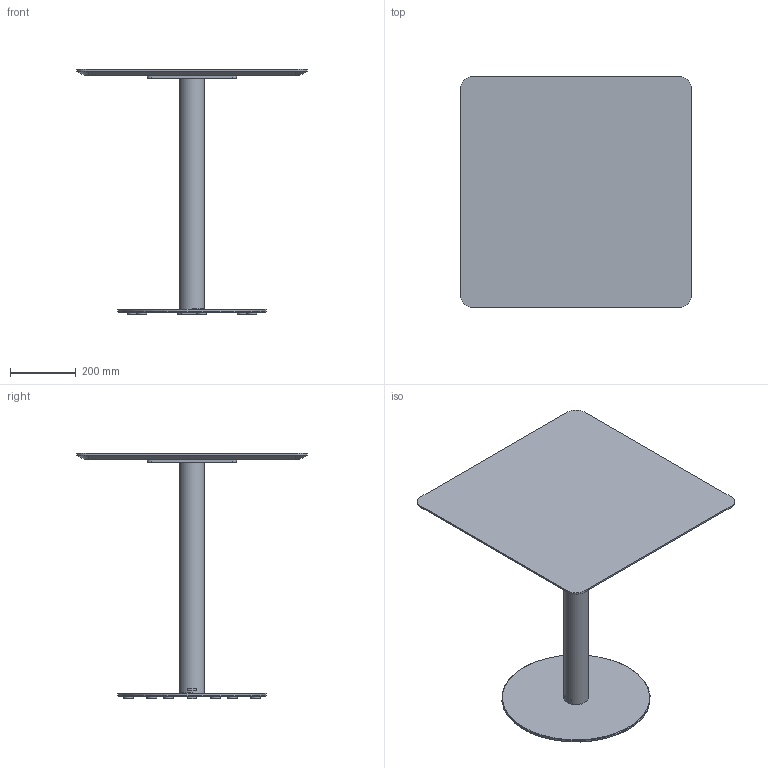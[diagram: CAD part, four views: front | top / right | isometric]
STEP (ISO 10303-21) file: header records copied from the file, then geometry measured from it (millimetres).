
FILE_DESCRIPTION( ('This file contains a STEP AP42 implementation' ,'as created by ZW3D STEP Interface translator.') ,'2;1' );
FILE_NAME( 'Henri - B_Rond - F3 - M5 - 700 x 700 x 750.stp' ,'24 912.154446', (''), ('ZWCAD Software Co.'), 'Version 1.0', 'ZW3D to STEP translator', '' );
FILE_SCHEMA(('AUTOMOTIVE_DESIGN { 1 0 10303 214 1 1 1 1 }'));
Length unit declared in the file: millimetre
Products named in the file (14): 0; PIED BISTROT PARAMETRIQUE_; COLONNE ACIER Ø76 V.02_; TUB-D076-02_; PLA-R76B-01_; SOCLE ACIER C Ø450 V.02_; SCL-D450-02_; PLA-R30A-01_; PLA-R30A-01; CROIX ACIER 370 V.02_; CRX-X370-02_; WUERTH 0276063020 Euro-screw 6.3x2 Verzinkt_; PLATEAU BISTROT PARAMETRIQUE_; insert_m6_13_
Assembly tree (24 placements, depth 3):
  0
  PIED BISTROT PARAMETRIQUE_
    COLONNE ACIER Ø76 V.02_
      TUB-D076-02_
      PLA-R76B-01_  x2
    SOCLE ACIER C Ø450 V.02_
      SCL-D450-02_
      PLA-R30A-01_
      PLA-R30A-01  x5
    CROIX ACIER 370 V.02_
      CRX-X370-02_
    WUERTH 0276063020 Euro-screw 6.3x2 Verzinkt_
    PLATEAU BISTROT PARAMETRIQUE_
      insert_m6_13_  x8
Bounding box: 700 x 700 x 744 mm (x, y, z)
Volume: 11478045.1 mm3; surface area: 1857017.2 mm2
Topology: 21 solids, 21 shells, 516 faces, 1257 edges, 794 vertices
Faces by surface type: plane 250, bspline 121, cylinder 99, cone 45, torus 1
Full cylindrical faces by diameter (mm): 4.88 x1, 6 x8, 6.3 x1, 8 x47, 12 x2, 14 x2, 30 x6, 72 x1, 76 x1, 450 x1
Entity records: 11530 total; most frequent: CARTESIAN_POINT 3270, ORIENTED_EDGE 1494, DIRECTION 1388, EDGE_CURVE 747, VERTEX_POINT 482, VECTOR 464, LINE 464, AXIS2_PLACEMENT_3D 462
